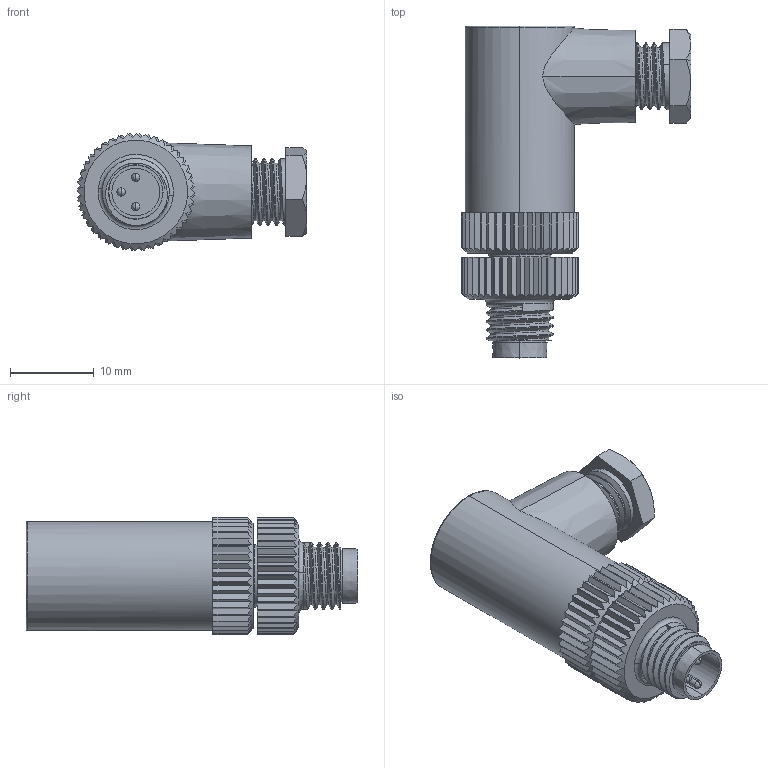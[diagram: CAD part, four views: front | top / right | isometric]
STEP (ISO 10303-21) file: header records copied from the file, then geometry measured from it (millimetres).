
FILE_DESCRIPTION (( 'STEP AP203' ), '1' );
FILE_NAME ('63F043.STEP', '2022-12-03T03:18:13', ( '' ), ( '' ), 'SwSTEP 2.0', 'SolidWorks 2016', '' );
FILE_SCHEMA (( 'CONFIG_CONTROL_DESIGN' ));
Length unit declared in the file: millimetre
Products named in the file (1): 63F043
Bounding box: 27.42 x 39.6 x 14 mm (x, y, z)
Volume: 5516.6 mm3; surface area: 3667.4 mm2
Topology: 1 solids, 6 shells, 431 faces, 1110 edges, 698 vertices
Faces by surface type: plane 231, cylinder 145, cone 26, bspline 23, torus 4, sphere 2
Entity records: 38137 total; most frequent: CARTESIAN_POINT 27959, ORIENTED_EDGE 2202, DIRECTION 2010, EDGE_CURVE 1101, AXIS2_PLACEMENT_3D 749, VERTEX_POINT 696, VECTOR 512, LINE 512
